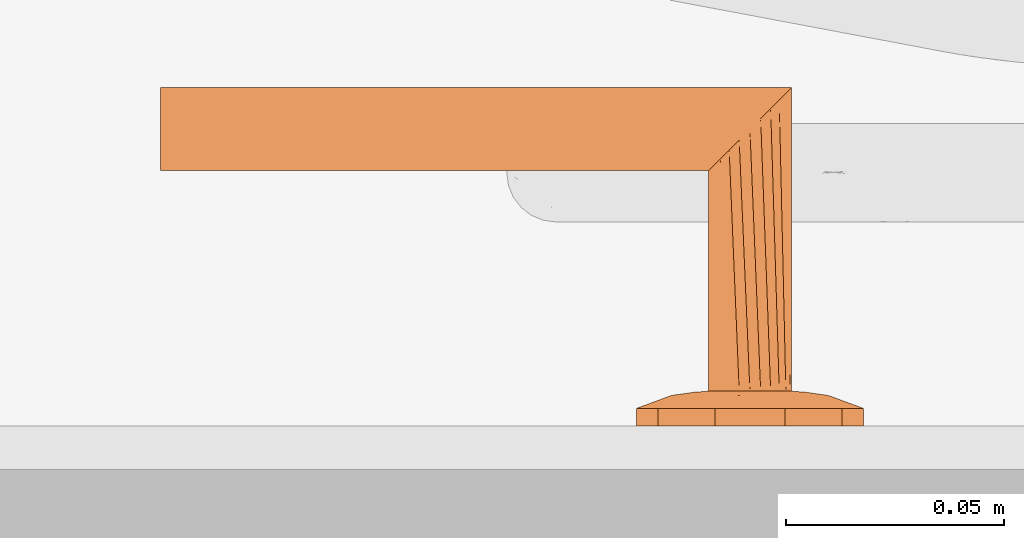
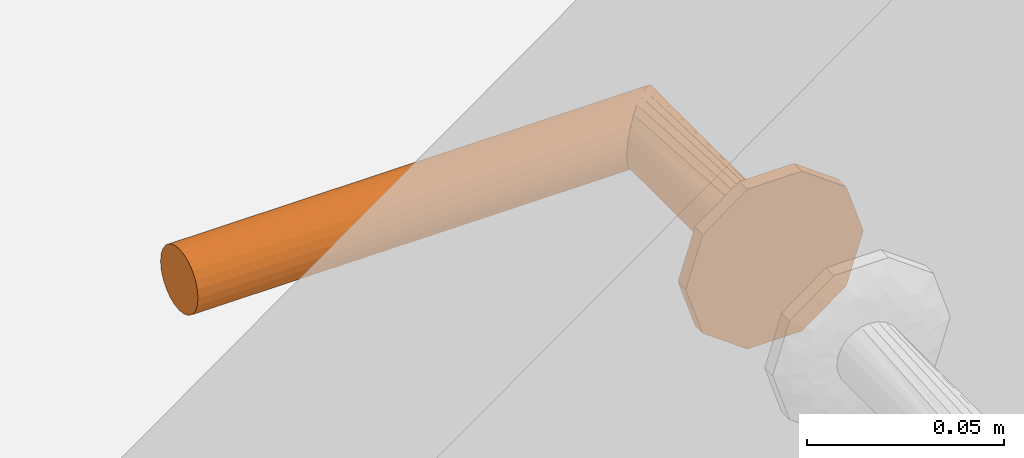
# One storey, part 46 of 68: 1 proxy.
"""IFC2X3 building model written with IfcOpenShell, lengths in millimetres."""

from ifc_helpers import new_model, entity, si_unit, converted_unit, direction, frame, origin, place, context, subcontext, project, spatial, faceted_brep, source, transform, mapped, material, type_object, type_shapes, element, save


model = new_model("IFC2X3")

# Units and contexts
model_context = context("Model", 3, precision=0.01, world=origin(), true_north=direction((6.123233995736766e-17, 1.0)))
plan_context = context("Plan", 3, precision=0.01, world=origin(), true_north=direction((6.123233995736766e-17, 1.0)))
body_context = subcontext(model_context, "Body", "Model", "MODEL_VIEW")
ifc_project = project(units=[si_unit("LENGTHUNIT", "METRE", prefix="MILLI"), converted_unit("PLANEANGLEUNIT", "DEGREE", entity("IfcPlaneAngleMeasure", 0.017453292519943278), si_unit("PLANEANGLEUNIT", "RADIAN"), dimensions=[0, 0, 0, 0, 0, 0, 0]), si_unit("AREAUNIT", "SQUARE_METRE")], contexts=[model_context, plan_context])

# Site, building, storey, space
site_placement = place(None, origin())
site = spatial("IfcSite", under=ifc_project, at=site_placement, Name="Default", CompositionType="ELEMENT")
building_placement = place(site_placement, origin())
building = spatial("IfcBuilding", under=site, at=building_placement, CompositionType="ELEMENT")
storey_placement = place(building_placement, frame((0.0, 0.0, 6295.0)))
storey = spatial("IfcBuildingStorey", under=building, at=storey_placement, Name="3K", CompositionType="ELEMENT", Elevation=6294.999999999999)
space_placement = place(storey_placement, origin())
space = spatial("IfcSpace", under=storey, at=space_placement, Name="3-5.2", CompositionType="ELEMENT", InteriorOrExteriorSpace="INTERNAL")

# Proxy
ifc_material = material(Name="<Unnamed>")
building_element_proxy_type = type_object("IfcBuildingElementProxyType", Name="Door-handle_Lever_ABLOY_INOXI_3-19ss-002_RT:Default", PredefinedType="NOTDEFINED", material=ifc_material)
shared_shape = source(origin(), body_context, "Body", "Brep", [
    faceted_brep([(0.0, 0.0, 0.0), (8.034441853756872, 24.72746942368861, 0.0), (14.534441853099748, 20.00494299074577, 0.0), (21.034441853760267, 15.282416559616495, 0.0), (23.51722092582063, 7.641208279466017, 0.0), (26.0, 0.0, 0.0), (23.517220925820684, -7.641208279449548, 0.0), (0.0, 24.72746942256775, 0.0), (-8.034441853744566, 24.727469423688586, 0.0), (-14.534441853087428, 20.00494299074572, 0.0), (-21.03444185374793, 15.282416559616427, 0.0), (-23.517220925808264, 7.641208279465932, 0.0), (-26.0, 0.0, 0.0), (21.034441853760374, -15.282416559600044, 0.0), (14.534441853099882, -20.004942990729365, 0.0), (8.034441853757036, -24.72746942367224, 0.0), (0.0, -24.72746942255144, 0.0), (-23.517220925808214, -7.641208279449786, 0.0), (-21.034441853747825, -15.282416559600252, 0.0), (-14.53444185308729, -20.004942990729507, 0.0), (-8.0344418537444, -24.72746942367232, 0.0), (0.0, 0.0, 8.0), (9.500000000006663, 0.0, 8.0), (8.312500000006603, 2.056810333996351, 8.0), (7.125000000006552, 4.113620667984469, 8.0), (5.937500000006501, 6.170431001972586, 8.0), (4.7500000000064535, 8.227241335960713, 8.0), (2.375000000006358, 8.2272413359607, 8.0), (0.0, 8.227241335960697, 8.0), (-2.3749999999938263, 8.227241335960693, 8.0), (-4.749999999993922, 8.227241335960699, 8.0), (-5.937499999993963, 6.1704310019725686, 8.0), (-7.124999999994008, 4.1136206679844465, 8.0), (-8.312499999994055, 2.0568103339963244, 8.0), (-9.499999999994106, 0.0, 8.0), (-8.31249999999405, -2.0568103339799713, 8.0), (8.312500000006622, -2.0568103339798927, 8.0), (7.125000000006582, -4.113620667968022, 8.0), (5.937500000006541, -6.170431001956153, 8.0), (4.750000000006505, -8.227241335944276, 8.0), (-7.124999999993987, -4.113620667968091, 8.0), (-5.9374999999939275, -6.17043100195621, 8.0), (-4.74999999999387, -8.227241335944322, 8.0), (-2.374999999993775, -8.227241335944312, 8.0), (0.0, -8.227241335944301, 8.0), (2.3750000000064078, -8.227241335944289, 8.0), (-20.6430713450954, 6.292822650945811, 5.929480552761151), (-16.663919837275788, 7.932665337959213, 6.877259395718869), (-22.48876527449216, 10.806469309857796, 4.030771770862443), (-16.764060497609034, 3.8202578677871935, 7.1747985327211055), (-12.504579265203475, 5.179566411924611, 7.774932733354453), (-11.979136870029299, 13.678312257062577, 6.945778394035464), (-11.963426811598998, 8.62529041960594, 7.618343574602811), (-9.07172672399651, 10.31160661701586, 7.7520782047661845), (8.03444185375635, 24.727469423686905, 4.030771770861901), (0.0, 24.72746942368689, 4.030771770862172), (5.758554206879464, 20.96753300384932, 5.871476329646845), (20.643071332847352, 6.292822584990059, 5.929480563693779), (22.488765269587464, 10.806469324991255, 4.03077177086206), (16.66391982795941, 7.9326653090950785, 6.877259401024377), (9.49943163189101, 18.6436835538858, 6.154325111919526), (14.534441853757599, 20.004942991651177, 4.030771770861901), (-14.534441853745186, 20.00494299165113, 4.030771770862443), (-21.034441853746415, 15.282416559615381, 4.030771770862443), (-15.783149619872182, 11.991003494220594, 6.50080018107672), (-23.943088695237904, 6.330522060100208, 4.030771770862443), (-23.012042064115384, 0.0, 5.135401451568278), (12.50457924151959, 5.179566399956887, 7.774932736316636), (11.963426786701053, 8.625290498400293, 7.618343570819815), (16.76406041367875, 3.820257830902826, 7.17479855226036), (15.783149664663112, 11.991003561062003, 6.50080015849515), (23.01204200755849, 0.0, 5.135401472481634), (17.9853516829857, 0.0, 6.993737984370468), (8.661516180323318, 10.478936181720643, 7.768126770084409), (-3.3573143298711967, 21.197247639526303, 5.971427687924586), (-8.03444185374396, 24.727469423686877, 4.030771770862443), (-7.711266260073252, 12.76034452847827, 7.594456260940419), (-5.97325794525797, 16.43013906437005, 7.110979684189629), (-9.94191586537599, 17.061976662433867, 6.522757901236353), (11.979136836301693, 13.678312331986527, 6.945778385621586), (5.953298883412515, 16.50608604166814, 7.096344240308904), (7.511307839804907, 13.358932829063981, 7.529187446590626), (-1.5654593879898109, 15.307443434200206, 7.519134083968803), (-7.784980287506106, 20.476295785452, 5.812837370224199), (2.8135289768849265, 17.763922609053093, 6.993737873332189), (-17.985351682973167, 0.0, 6.993737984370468), (-26.0, 0.0, 4.030771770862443), (-23.51722092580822, 7.641208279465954, 4.030771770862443), (26.0, 0.0, 4.030771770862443), (24.308823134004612, 5.204907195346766, 4.030771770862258), (23.943088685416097, 6.330522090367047, 4.030771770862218), (21.03444185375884, 15.282416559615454, 4.030771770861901), (22.617646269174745, 10.40981439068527, 4.030771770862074), (20.6430713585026, -6.292822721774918, 5.929480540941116), (16.663919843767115, -7.932665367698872, 6.877259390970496), (22.48876527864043, -10.8064692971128, 4.030771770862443), (16.764060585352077, -3.8202579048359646, 7.174798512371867), (12.504579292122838, -5.17956641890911, 7.774932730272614), (11.979136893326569, -13.678312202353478, 6.9457784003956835), (11.963426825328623, -8.62529034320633, 7.618343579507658), (9.071726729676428, -10.311606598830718, 7.752078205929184), (-8.03444185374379, -24.727469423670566, 4.030771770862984), (0.0, -24.727469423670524, 4.030771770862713), (-5.758554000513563, -20.96753314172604, 5.8714763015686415), (-20.643071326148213, -6.292822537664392, 5.929480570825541), (-22.488765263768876, -10.80646934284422, 4.030771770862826), (-16.66391981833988, -7.932665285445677, 6.877259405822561), (-9.499431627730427, -18.643683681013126, 6.154325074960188), (-14.534441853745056, -20.004942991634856, 4.030771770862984), (14.53444185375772, -20.00494299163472, 4.030771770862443), (21.034441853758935, -15.282416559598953, 4.030771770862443), (15.783149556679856, -11.991003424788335, 6.5008002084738), (23.943088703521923, -6.330522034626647, 4.030771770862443), (-12.504579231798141, -5.17956638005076, 7.77493273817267), (-11.963426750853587, -8.625290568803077, 7.618343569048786), (-16.764060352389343, -3.8202577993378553, 7.174798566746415), (-15.783149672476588, -11.991003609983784, 6.500800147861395), (-8.661516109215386, -10.478936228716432, 7.768126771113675), (3.3573144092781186, -21.197247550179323, 5.971427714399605), (8.034441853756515, -24.727469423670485, 4.030771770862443), (7.711266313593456, -12.760344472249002, 7.5944562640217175), (5.9732581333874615, -16.430139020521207, 7.110979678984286), (9.941915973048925, -17.06197655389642, 6.522757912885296), (-11.979136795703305, -13.678312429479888, 6.945778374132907), (-5.953298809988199, -16.506086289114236, 7.096344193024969), (-7.511307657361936, -13.358932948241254, 7.5291874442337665), (1.5654596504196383, -15.3074431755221, 7.519134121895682), (7.784980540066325, -20.476295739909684, 5.812837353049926), (-2.81352881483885, -17.76392263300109, 6.993737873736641), (23.517220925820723, -7.64120827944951, 4.030771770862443), (-24.308823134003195, -5.20490719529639, 4.030771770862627), (-23.943088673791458, -6.330522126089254, 4.030771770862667), (-21.034441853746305, -15.282416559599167, 4.030771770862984), (-22.617646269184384, -10.409814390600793, 4.0307717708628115)], [[[0, 1, 2]], [[0, 2, 3]], [[0, 3, 4]], [[0, 4, 5]], [[0, 5, 6]], [[0, 7, 1]], [[0, 8, 7]], [[0, 9, 8]], [[0, 10, 9]], [[0, 11, 10]], [[0, 12, 11]], [[0, 6, 13]], [[0, 13, 14]], [[0, 14, 15]], [[0, 15, 16]], [[0, 17, 12]], [[0, 18, 17]], [[0, 19, 18]], [[0, 20, 19]], [[0, 16, 20]], [[21, 22, 23]], [[21, 23, 24]], [[21, 24, 25]], [[21, 25, 26]], [[21, 26, 27]], [[21, 27, 28]], [[21, 28, 29]], [[21, 29, 30]], [[21, 30, 31]], [[21, 31, 32]], [[21, 32, 33]], [[21, 33, 34]], [[21, 34, 35]], [[21, 36, 22]], [[21, 37, 36]], [[21, 38, 37]], [[21, 39, 38]], [[21, 35, 40]], [[21, 40, 41]], [[21, 41, 42]], [[21, 42, 43]], [[21, 43, 44]], [[21, 44, 45]], [[21, 45, 39]], [[46, 47, 48]], [[49, 50, 47]], [[33, 32, 50]], [[51, 52, 53]], [[32, 52, 50]], [[49, 47, 46]], [[54, 55, 56]], [[57, 58, 59]], [[60, 61, 54]], [[62, 63, 64]], [[46, 65, 66]], [[67, 59, 68]], [[23, 69, 67]], [[70, 68, 59]], [[23, 22, 69]], [[52, 51, 64]], [[71, 69, 72]], [[73, 25, 68]], [[74, 55, 75]], [[76, 77, 78]], [[70, 61, 79]], [[71, 57, 69]], [[60, 80, 81]], [[51, 76, 78]], [[77, 29, 82]], [[26, 81, 27]], [[74, 83, 77]], [[77, 82, 74]], [[74, 84, 55]], [[34, 49, 85]], [[23, 67, 24]], [[28, 84, 82]], [[74, 82, 84]], [[29, 76, 30]], [[29, 28, 82]], [[49, 34, 33]], [[47, 50, 52]], [[47, 52, 64]], [[50, 49, 33]], [[53, 76, 51]], [[52, 32, 31]], [[49, 66, 85]], [[86, 66, 65]], [[24, 67, 68]], [[83, 78, 77]], [[49, 46, 66]], [[48, 64, 63]], [[46, 48, 87, 65]], [[48, 47, 64]], [[59, 67, 69]], [[26, 73, 81]], [[79, 68, 70]], [[25, 24, 68]], [[71, 88, 89, 90]], [[22, 72, 69]], [[59, 69, 57]], [[79, 61, 60]], [[51, 62, 64]], [[70, 58, 91]], [[90, 57, 71]], [[58, 70, 59]], [[57, 90, 92]], [[79, 60, 81]], [[61, 70, 91]], [[56, 80, 60]], [[79, 81, 73]], [[80, 84, 27]], [[79, 73, 68]], [[27, 84, 28]], [[25, 73, 26]], [[77, 76, 29]], [[31, 30, 53]], [[78, 62, 51]], [[75, 62, 83]], [[78, 83, 62]], [[75, 83, 74]], [[76, 53, 30]], [[31, 53, 52]], [[81, 80, 27]], [[84, 80, 56]], [[84, 56, 55]], [[54, 56, 60]], [[93, 94, 95]], [[96, 97, 94]], [[36, 37, 97]], [[98, 99, 100]], [[37, 99, 97]], [[96, 94, 93]], [[101, 102, 103]], [[104, 105, 106]], [[107, 108, 101]], [[109, 110, 111]], [[93, 112, 71]], [[113, 106, 114]], [[35, 115, 113]], [[116, 114, 106]], [[35, 34, 115]], [[99, 98, 111]], [[66, 115, 85]], [[117, 41, 114]], [[118, 102, 119]], [[120, 121, 122]], [[116, 108, 123]], [[66, 104, 115]], [[107, 124, 125]], [[120, 45, 121]], [[121, 45, 126]], [[42, 125, 43]], [[118, 127, 121]], [[121, 126, 118]], [[118, 128, 102]], [[22, 96, 72]], [[35, 113, 40]], [[44, 128, 126]], [[118, 126, 128]], [[45, 120, 39]], [[45, 44, 126]], [[96, 22, 36]], [[94, 97, 99]], [[94, 99, 111]], [[97, 96, 36]], [[100, 120, 98]], [[99, 37, 38]], [[96, 71, 72]], [[88, 71, 112]], [[40, 113, 114]], [[127, 122, 121]], [[96, 93, 71]], [[95, 111, 110]], [[93, 95, 129, 112]], [[95, 94, 111]], [[106, 113, 115]], [[42, 117, 125]], [[123, 114, 116]], [[41, 40, 114]], [[66, 86, 130, 131]], [[34, 85, 115]], [[106, 115, 104]], [[123, 108, 107]], [[98, 109, 111]], [[116, 105, 132]], [[131, 104, 66]], [[105, 116, 106]], [[104, 131, 133]], [[123, 107, 125]], [[108, 116, 132]], [[103, 124, 107]], [[123, 125, 117]], [[124, 128, 43]], [[123, 117, 114]], [[43, 128, 44]], [[41, 117, 42]], [[38, 39, 100]], [[98, 120, 122]], [[122, 109, 98]], [[119, 109, 127]], [[122, 127, 109]], [[119, 127, 118]], [[120, 100, 39]], [[38, 100, 99]], [[125, 124, 43]], [[128, 124, 103]], [[128, 103, 102]], [[101, 103, 107]], [[9, 10, 63, 62, 75, 8]], [[11, 12, 86, 65, 87, 48, 63, 10]], [[4, 3, 92, 90, 89, 88, 5]], [[3, 91, 58]], [[55, 54, 1, 7, 8, 75]], [[3, 2, 1, 54, 61, 91]], [[13, 6, 5, 88, 112, 129, 95, 110]], [[119, 15, 14, 13, 110, 109]], [[17, 18, 133, 131, 130, 86, 12]], [[18, 132, 105]], [[102, 101, 20, 16, 15, 119]], [[18, 19, 20, 101, 108, 132]], [[57, 92, 58]], [[104, 133, 105]], [[3, 58, 92]], [[18, 105, 133]]]),
    faceted_brep([(0.0, 9.499999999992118, 8.0), (2.4587809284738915, 9.176295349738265, 8.0), (4.7499999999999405, 8.22724133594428, 8.0), (6.717514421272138, 6.7175144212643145, 8.0), (8.227241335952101, 4.749999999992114, 8.0), (9.17629534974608, 2.458780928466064, 8.0), (9.499999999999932, 0.0, 8.0), (9.17629534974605, -2.458780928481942, 8.0), (8.22724133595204, -4.75000000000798, 8.0), (6.717514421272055, -6.717514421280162, 8.0), (4.7499999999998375, -8.227241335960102, 8.0), (2.4587809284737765, -9.176295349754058, 8.0), (0.0, -9.500000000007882, 8.0), (-2.4587809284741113, -9.176295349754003, 8.0), (-4.750000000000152, -8.227241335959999, 8.0), (-6.717514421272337, -6.717514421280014, 8.0), (-8.227241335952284, -4.750000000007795, 8.0), (-9.176295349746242, -2.458780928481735, 8.0), (-9.500000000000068, 0.0, 8.0), (-9.176295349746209, 2.4587809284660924, 8.0), (-8.227241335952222, 4.74999999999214, 8.0), (-6.717514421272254, 6.717514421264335, 8.0), (-4.7500000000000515, 8.227241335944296, 8.0), (-2.4587809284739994, 9.176295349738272, 8.0), (-6.717514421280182, -6.7175144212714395, 61.282485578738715), (-8.227241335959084, -4.7499999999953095, 59.772758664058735), (-9.176295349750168, -2.458780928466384, 58.82370465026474), (-2.4587809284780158, -9.176295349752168, 65.54121907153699), (-4.750000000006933, -8.227241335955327, 63.25000000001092), (-9.500000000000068, 0.0, 58.50000000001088), (0.0, -9.50000000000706, 68.0), (2.4587809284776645, -9.17629534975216, 70.45878092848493), (4.750000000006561, -8.227241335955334, 72.75000000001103), (6.717514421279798, -6.7175144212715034, 74.71751442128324), (9.17629534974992, -2.458780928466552, 77.17629534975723), (8.22724133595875, -4.749999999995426, 76.22724133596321), (9.499999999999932, 0.0, 77.50000000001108), (9.176295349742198, 2.4587809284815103, 77.1762953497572), (8.227241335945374, 4.750000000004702, 76.22724133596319), (4.749999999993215, 8.227241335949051, 72.75000000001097), (6.7175144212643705, 6.717514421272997, 74.7175144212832), (2.4587809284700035, 9.17629534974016, 70.45878092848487), (-2.4587809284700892, 9.176295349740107, 65.54121907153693), (0.0, 9.49999999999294, 68.0), (-6.717514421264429, 6.717514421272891, 61.282485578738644), (-4.749999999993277, 8.227241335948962, 63.250000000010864), (-9.176295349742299, 2.458780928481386, 58.8237046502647), (-8.227241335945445, 4.750000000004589, 59.77275866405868), (-135.0, 9.500000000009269, 68.0), (-135.0, 9.176295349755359, 65.54121907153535), (-135.0, 8.227241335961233, 63.25000000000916), (-135.0, 6.7175144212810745, 61.28248557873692), (-135.0, 4.750000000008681, 59.772758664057), (-135.0, 2.458780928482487, 58.82370465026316), (-135.0, 0.0, 58.50000000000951), (-135.0, -2.458780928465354, 58.823704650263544), (-135.0, -4.749999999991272, 59.772758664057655), (-135.0, -6.717514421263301, 61.28248557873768), (-135.0, -8.227241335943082, 63.250000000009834), (-135.0, -9.17629534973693, 65.54121907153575), (-135.0, -9.499999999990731, 68.0), (-135.0, -9.17629534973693, 70.45878092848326), (-135.0, -8.227241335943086, 72.75000000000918), (-135.0, -6.717514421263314, 74.71751442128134), (-135.0, -4.749999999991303, 76.22724133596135), (-135.0, -2.4587809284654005, 77.17629534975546), (-135.0, 0.0, 77.5000000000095), (-135.0, 2.4587809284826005, 77.17629534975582), (-135.0, 4.750000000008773, 76.22724133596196), (-135.0, 6.717514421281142, 74.71751442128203), (-135.0, 8.227241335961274, 72.75000000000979), (-135.0, 9.176295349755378, 70.4587809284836)], [[[0, 1, 2, 3, 4, 5, 6, 7, 8, 9, 10, 11, 12, 13, 14, 15, 16, 17, 18, 19, 20, 21, 22, 23]], [[15, 24, 25, 16]], [[16, 25, 26, 17]], [[27, 28, 12]], [[12, 28, 13]], [[13, 28, 24]], [[18, 17, 26, 29]], [[24, 15, 14]], [[14, 13, 24]], [[11, 30, 27]], [[31, 9, 32]], [[32, 8, 33]], [[34, 35, 7]], [[7, 35, 33]], [[36, 34, 7, 6]], [[30, 11, 10]], [[11, 27, 12]], [[33, 8, 7]], [[8, 32, 9]], [[31, 10, 9]], [[10, 31, 30]], [[37, 36, 6, 5]], [[37, 5, 38]], [[39, 40, 4]], [[5, 40, 38]], [[41, 39, 3]], [[5, 4, 40]], [[42, 43, 1]], [[2, 1, 43]], [[2, 41, 3]], [[39, 4, 3]], [[2, 43, 41]], [[23, 44, 45]], [[0, 45, 42]], [[19, 18, 29, 46]], [[20, 19, 46, 47]], [[21, 20, 47, 44]], [[23, 22, 44]], [[45, 0, 23]], [[44, 22, 21]], [[1, 0, 42]], [[48, 49, 50, 51, 52, 53, 54, 55, 56, 57, 58, 59, 60, 61, 62, 63, 64, 65, 66, 67, 68, 69, 70, 71]], [[26, 25, 56, 55]], [[29, 26, 55, 54]], [[28, 27, 59, 58]], [[24, 28, 58, 57]], [[25, 24, 57, 56]], [[27, 30, 60, 59]], [[32, 33, 63, 62]], [[31, 32, 62, 61]], [[34, 36, 66, 65]], [[35, 34, 65, 64]], [[33, 35, 64, 63]], [[61, 60, 30, 31]], [[38, 68, 67, 37]], [[37, 67, 66, 36]], [[41, 71, 70, 39]], [[39, 70, 69, 40]], [[40, 69, 68, 38]], [[48, 71, 41, 43]], [[44, 51, 50, 45]], [[45, 50, 49, 42]], [[29, 54, 53, 46]], [[46, 53, 52, 47]], [[47, 52, 51, 44]], [[42, 49, 48, 43]]]),
])
type_shapes(building_element_proxy_type, [shared_shape])
proxy_placement = place(space_placement, frame((214.9935349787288, 8808.0, 1000.0), z_axis=(0.0, 1.0, 0.0), x_axis=(1.0, 0.0, 0.0)))
element("IfcBuildingElementProxy", 1, at=proxy_placement, inside=space, type_object=building_element_proxy_type, material=ifc_material, Name="Door-handle_Lever_ABLOY_INOXI_3-19ss-002_RT:Default", ObjectType="Door-handle_Lever_ABLOY_INOXI_3-19ss-002_RT:Default", context=body_context, shape_type="MappedRepresentation", body=[
    mapped(shared_shape, transform((0.0, 0.0, 0.0), scale=1.0)),
])

save(model, "model.ifc")
